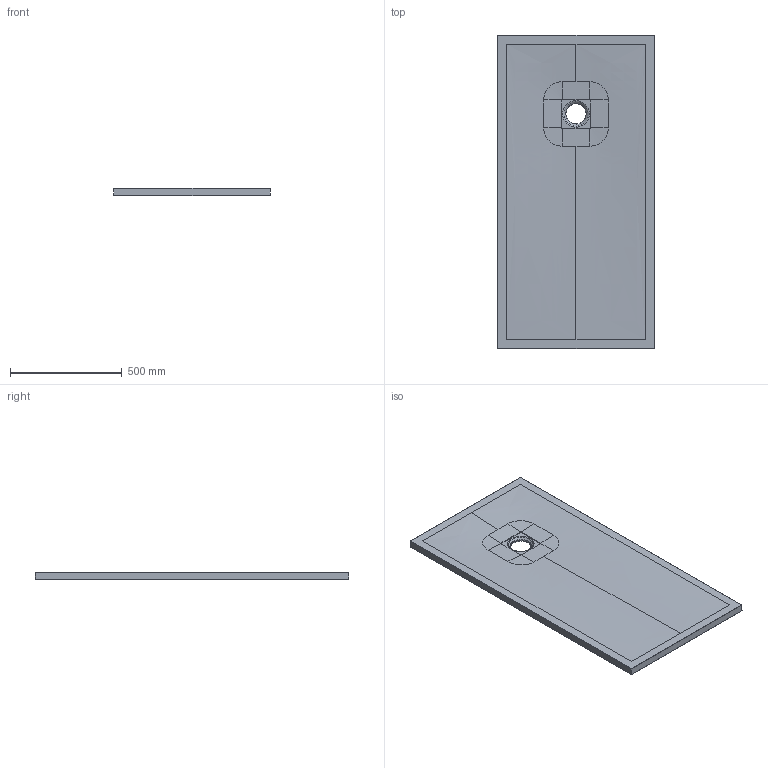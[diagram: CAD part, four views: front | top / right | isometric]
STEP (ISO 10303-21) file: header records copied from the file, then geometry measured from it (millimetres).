
FILE_DESCRIPTION(/* description */ (''),/* implementation_level */ '2;1');
FILE_NAME(/* name */ '1400X700.stp',/* time_stamp */ '2022-02-25T14:26:14+01:00',/* author */ (''),/* organization */ (''),/* preprocessor_version */ 'ST-DEVELOPER v18.1',/* originating_system */ 'SIEMENS PLM Software NX 1973',/* authorisation */ '');
FILE_SCHEMA (('AUTOMOTIVE_DESIGN { 1 0 10303 214 3 1 1 1 }'));
Length unit declared in the file: millimetre
Products named in the file (1): Cava2B7C939Cut6i
Bounding box: 699.98 x 1399.98 x 33 mm (x, y, z)
Volume: 28504202.7 mm3; surface area: 2084411.2 mm2
Topology: 1 solids, 1 shells, 58 faces, 135 edges, 74 vertices
Faces by surface type: bspline 22, cylinder 14, plane 13, sphere 8, cone 1
Full cylindrical faces by diameter (mm): 8 x2
Entity records: 4637 total; most frequent: CARTESIAN_POINT 3538, ORIENTED_EDGE 246, DIRECTION 164, EDGE_CURVE 123, VERTEX_POINT 73, AXIS2_PLACEMENT_3D 70, B_SPLINE_CURVE_WITH_KNOTS 66, EDGE_LOOP 66
